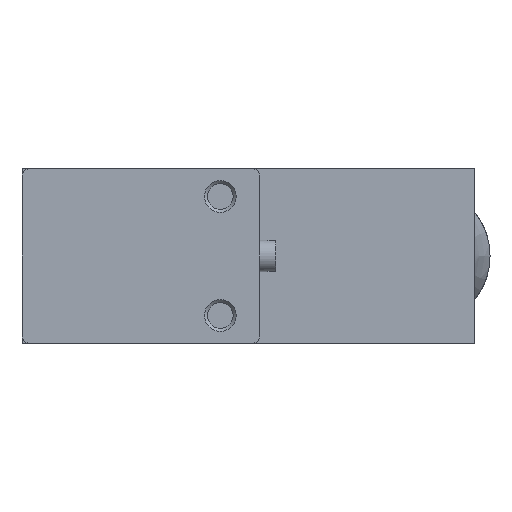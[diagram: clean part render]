
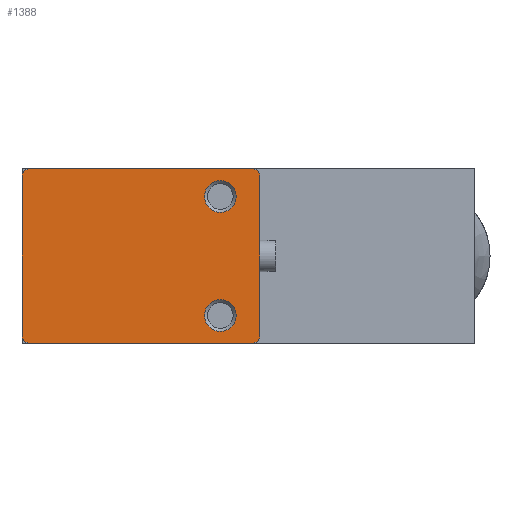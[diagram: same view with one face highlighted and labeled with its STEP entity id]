
A CAD part, front view. The second image highlights one B-rep face of the part: STEP entity #1388.
In plain terms, the highlighted planar face has unit normal (0, -1, 0).
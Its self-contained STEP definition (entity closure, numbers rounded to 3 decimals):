
#41=FACE_BOUND('',#192,.T.);
#42=FACE_BOUND('',#193,.T.);
#92=FACE_OUTER_BOUND('',#191,.T.);
#191=EDGE_LOOP('',(#979,#980,#981,#982,#983,#984,#985,#986));
#192=EDGE_LOOP('',(#987));
#193=EDGE_LOOP('',(#988));
#293=LINE('',#2194,#414);
#299=LINE('',#2207,#420);
#303=LINE('',#2222,#424);
#305=LINE('',#2231,#426);
#414=VECTOR('',#1741,1000.);
#420=VECTOR('',#1749,1000.);
#424=VECTOR('',#1761,1000.);
#426=VECTOR('',#1769,1000.);
#551=CIRCLE('',#1571,1.);
#552=CIRCLE('',#1572,1.);
#553=CIRCLE('',#1573,1.);
#554=CIRCLE('',#1574,1.);
#555=CIRCLE('',#1575,2.);
#556=CIRCLE('',#1576,2.);
#613=VERTEX_POINT('',#2192);
#614=VERTEX_POINT('',#2193);
#619=VERTEX_POINT('',#2204);
#620=VERTEX_POINT('',#2206);
#626=VERTEX_POINT('',#2219);
#627=VERTEX_POINT('',#2221);
#630=VERTEX_POINT('',#2229);
#631=VERTEX_POINT('',#2230);
#641=VERTEX_POINT('',#2261);
#642=VERTEX_POINT('',#2263);
#745=EDGE_CURVE('',#613,#614,#293,.T.);
#751=EDGE_CURVE('',#619,#620,#299,.T.);
#758=EDGE_CURVE('',#626,#627,#303,.T.);
#762=EDGE_CURVE('',#630,#631,#305,.T.);
#777=EDGE_CURVE('',#619,#614,#551,.F.);
#778=EDGE_CURVE('',#613,#631,#552,.F.);
#779=EDGE_CURVE('',#630,#627,#553,.F.);
#780=EDGE_CURVE('',#626,#620,#554,.F.);
#781=EDGE_CURVE('',#641,#641,#555,.T.);
#782=EDGE_CURVE('',#642,#642,#556,.T.);
#979=ORIENTED_EDGE('',*,*,#751,.F.);
#980=ORIENTED_EDGE('',*,*,#777,.T.);
#981=ORIENTED_EDGE('',*,*,#745,.F.);
#982=ORIENTED_EDGE('',*,*,#778,.T.);
#983=ORIENTED_EDGE('',*,*,#762,.F.);
#984=ORIENTED_EDGE('',*,*,#779,.T.);
#985=ORIENTED_EDGE('',*,*,#758,.F.);
#986=ORIENTED_EDGE('',*,*,#780,.T.);
#987=ORIENTED_EDGE('',*,*,#781,.T.);
#988=ORIENTED_EDGE('',*,*,#782,.T.);
#1324=PLANE('',#1570);
#1388=ADVANCED_FACE('',(#92,#41,#42),#1324,.F.);
#1570=AXIS2_PLACEMENT_3D('',#2256,#1793,#1794);
#1571=AXIS2_PLACEMENT_3D('',#2257,#1795,#1796);
#1572=AXIS2_PLACEMENT_3D('',#2258,#1797,#1798);
#1573=AXIS2_PLACEMENT_3D('',#2259,#1799,#1800);
#1574=AXIS2_PLACEMENT_3D('',#2260,#1801,#1802);
#1575=AXIS2_PLACEMENT_3D('',#2262,#1803,#1804);
#1576=AXIS2_PLACEMENT_3D('',#2264,#1805,#1806);
#1741=DIRECTION('',(0.,0.,1.));
#1749=DIRECTION('',(1.,0.,0.));
#1761=DIRECTION('',(0.,0.,-1.));
#1769=DIRECTION('',(-1.,0.,0.));
#1793=DIRECTION('center_axis',(0.,1.,0.));
#1794=DIRECTION('ref_axis',(0.,0.,1.));
#1795=DIRECTION('center_axis',(0.,1.,0.));
#1796=DIRECTION('ref_axis',(0.,0.,1.));
#1797=DIRECTION('center_axis',(0.,1.,0.));
#1798=DIRECTION('ref_axis',(0.,0.,1.));
#1799=DIRECTION('center_axis',(0.,1.,0.));
#1800=DIRECTION('ref_axis',(0.,0.,1.));
#1801=DIRECTION('center_axis',(0.,1.,0.));
#1802=DIRECTION('ref_axis',(0.,0.,1.));
#1803=DIRECTION('center_axis',(0.,1.,0.));
#1804=DIRECTION('ref_axis',(0.,0.,1.));
#1805=DIRECTION('center_axis',(0.,1.,0.));
#1806=DIRECTION('ref_axis',(0.,0.,1.));
#2192=CARTESIAN_POINT('',(0.,0.,1.));
#2193=CARTESIAN_POINT('',(0.,0.,21.));
#2194=CARTESIAN_POINT('',(0.,0.,0.));
#2204=CARTESIAN_POINT('',(1.,0.,22.));
#2206=CARTESIAN_POINT('',(29.,0.,22.));
#2207=CARTESIAN_POINT('',(0.,0.,22.));
#2219=CARTESIAN_POINT('',(30.,0.,21.));
#2221=CARTESIAN_POINT('',(30.,0.,1.));
#2222=CARTESIAN_POINT('',(30.,0.,22.));
#2229=CARTESIAN_POINT('',(29.,0.,0.));
#2230=CARTESIAN_POINT('',(1.,0.,0.));
#2231=CARTESIAN_POINT('',(30.,0.,0.));
#2256=CARTESIAN_POINT('Origin',(0.,0.,0.));
#2257=CARTESIAN_POINT('Origin',(1.,0.,21.));
#2258=CARTESIAN_POINT('Origin',(1.,0.,1.));
#2259=CARTESIAN_POINT('Origin',(29.,0.,1.));
#2260=CARTESIAN_POINT('Origin',(29.,0.,21.));
#2261=CARTESIAN_POINT('',(25.,0.,20.5));
#2262=CARTESIAN_POINT('Origin',(25.,0.,18.5));
#2263=CARTESIAN_POINT('',(25.,0.,5.5));
#2264=CARTESIAN_POINT('Origin',(25.,0.,3.5));
